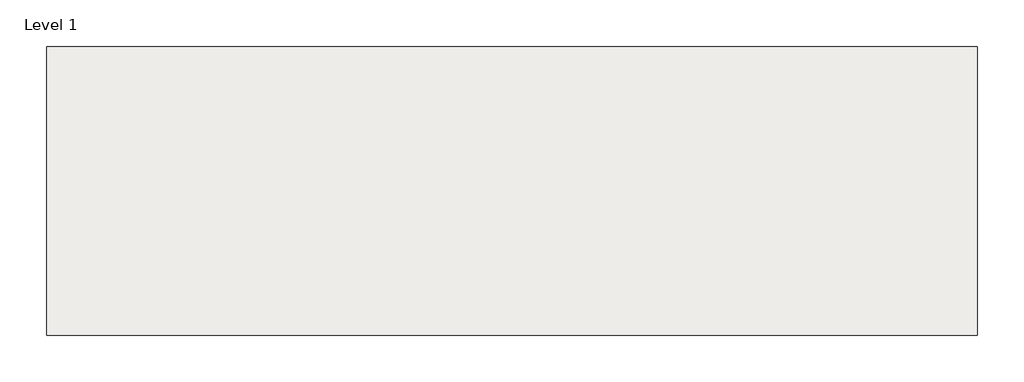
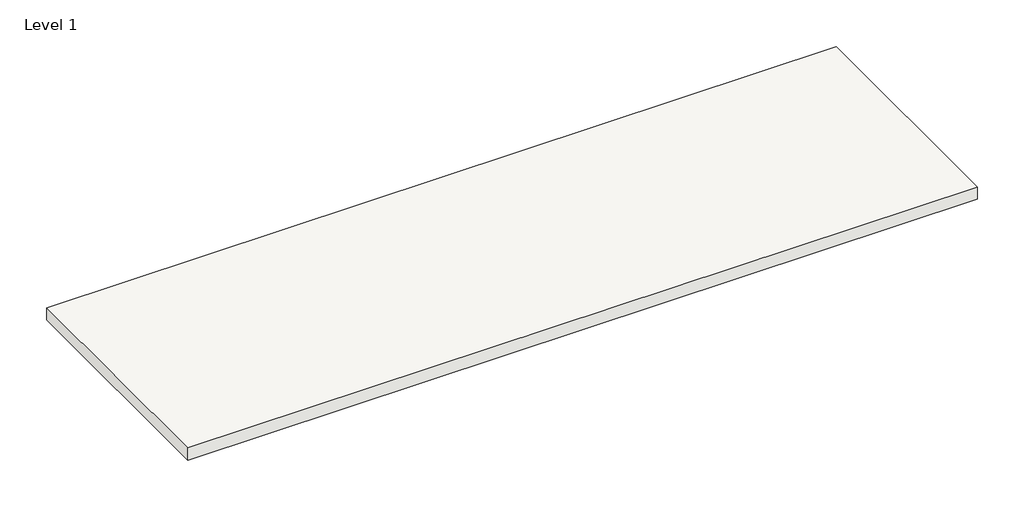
# One storey, incomplete: 1 slab.
"""IFC4 building model written with IfcOpenShell, lengths in millimetres."""

from ifc_helpers import new_model, si_unit, frame, origin, place, context, project, spatial, polyline, outline, extrude, element, save

model = new_model("IFC4")

# Units and contexts
model_context = context("Model", 3, world=origin())
ifc_project = project(units=[si_unit("LENGTHUNIT", "METRE", prefix="MILLI")], contexts=[model_context])

# Site, building, storey
site = spatial("IfcSite", under=ifc_project)
building = spatial("IfcBuilding", under=site)
storey = spatial("IfcBuildingStorey", under=building, Name="Level 1", Elevation=0.0)

# Slab
placement = place(None, origin())
element("IfcSlab", 1, ObjectType="Generic - 12\"", at=placement, inside=storey, context=model_context, shape_type="SweptSolid", body=[
    extrude(outline(polyline([(-148.4242006, 17737.2598675), (-148.4242006, 11937.2598675), (-18848.4242006, 11937.2598675), (-18848.4242006, 17737.2598675), (-148.4242006, 17737.2598675)])), frame((0.0, 0.0, -304.8), z_axis=(0.0, 0.0, 1.0), x_axis=(1.0, 0.0, 0.0)), (0.0, 0.0, 1.0), 304.8),
])

save(model, "model.ifc")
